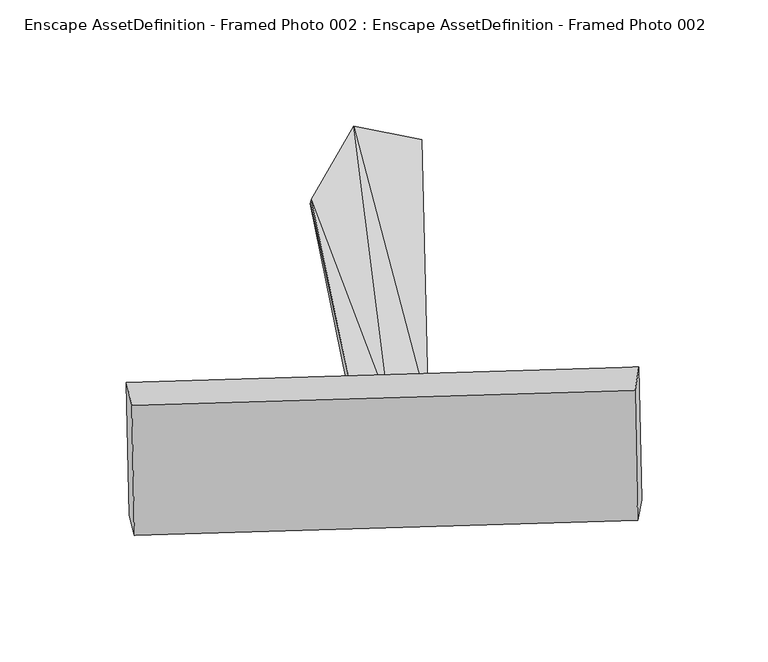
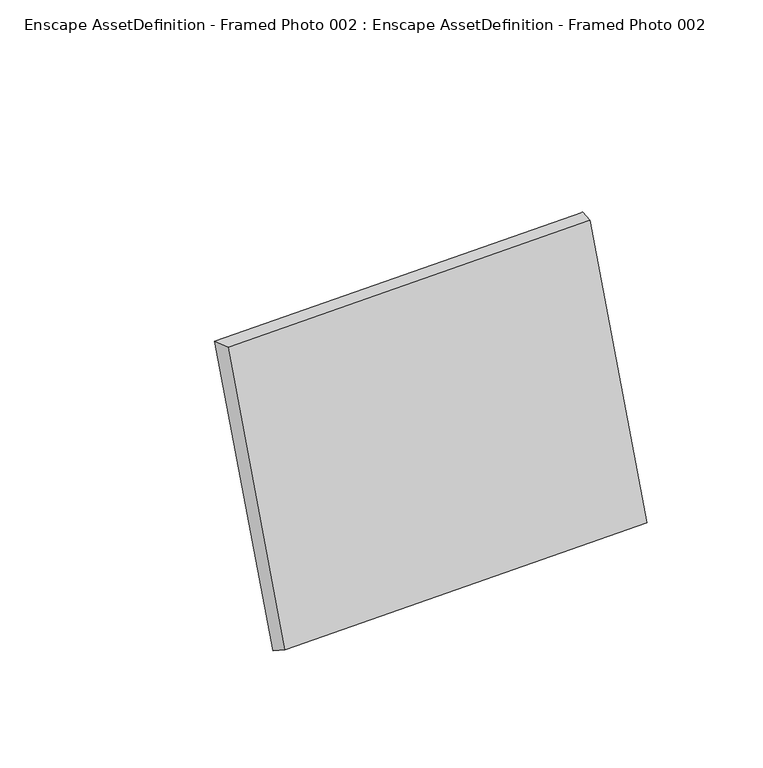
"""IFC4 building model written with IfcOpenShell, lengths in millimetres: geographic element geometry, Enscape AssetDefinition - Framed Photo 002 : Enscape AssetDefinition - Framed Photo 002."""

from ifc_helpers import new_model, si_unit, origin, place, context, project, spatial, triangles, source, transform, mapped, element, save


def enscape_assetdefinition_framed_photo_002_enscape_b43454c2(model_context):
    return source(origin(), model_context, "Body", "Tessellation", [
        triangles([(-84.4193657, -6.6028083, 1.2687997), (116.7390408, -8.5722886, 5.4381639), (115.7006503, 42.8393501, 147.2943978), (-83.3778231, 36.9025031, 147.9887685), (-82.3394236, -14.5091344, 6.1356879), (117.2440427, 52.1249434, 145.9245867), (-85.483018, 46.0776335, 146.6316021), (118.307686, -0.5554944, 0.5618068), (4.4660488, 147.3859256, 2.7017229), (33.2381352, 33.8820026, 94.617108), (-12.4449696, 118.4497195, 31.6726489), (4.1819889, 38.9603581, 106.7369896), (3.4181842, 37.2275923, 105.0673604), (33.9956289, 35.5421756, 96.3625048), (18.2902853, 37.2938742, 102.0279111), (17.5359493, 35.595831, 100.3204027), (4.1314895, 145.7131353, 0.839554), (30.9814392, 140.5148515, 0.839554), (31.3033718, 142.1718452, 2.7175039), (-12.7290286, 116.7453631, 29.8325745)], [[13, 16, 15], [20, 13, 12], [17, 20, 11], [16, 10, 14], [18, 17, 9], [10, 18, 19], [16, 13, 20], [10, 16, 17], [11, 12, 15], [9, 15, 14], [15, 12, 13], [12, 11, 20], [11, 9, 17], [14, 15, 16], [9, 19, 18], [19, 14, 10], [20, 17, 16], [17, 18, 10], [15, 9, 11], [14, 19, 9], [7, 6, 8], [3, 4, 5], [7, 1, 5], [6, 7, 4], [8, 6, 3], [1, 8, 2], [1, 7, 8], [2, 3, 5], [4, 7, 5], [3, 6, 4], [2, 8, 3], [5, 1, 2]]),
    ])


if __name__ == "__main__":
    model = new_model("IFC4")
    model_context = context("Model", 3, world=origin())
    ifc_project = project(units=[si_unit("LENGTHUNIT", "METRE", prefix="MILLI")], contexts=[model_context])
    site = spatial("IfcSite", under=ifc_project)
    building = spatial("IfcBuilding", under=site)
    placement = place(None, origin())
    enscape_assetdefinition_framed_photo_002_enscape_shape = enscape_assetdefinition_framed_photo_002_enscape_b43454c2(model_context)
    element("IfcGeographicElement", 1, ObjectType="Enscape AssetDefinition - Framed Photo 002 : Enscape AssetDefinition - Framed Photo 002", at=placement, inside=building, context=model_context, shape_type="MappedRepresentation", body=[
        mapped(enscape_assetdefinition_framed_photo_002_enscape_shape, transform((0.0, 0.0, 0.0), x_axis=(1.0, 0.0, 0.0), y_axis=(0.0, 1.0, 0.0), z_axis=(0.0, 0.0, 1.0))),
    ])
    save(model, "model.ifc")
